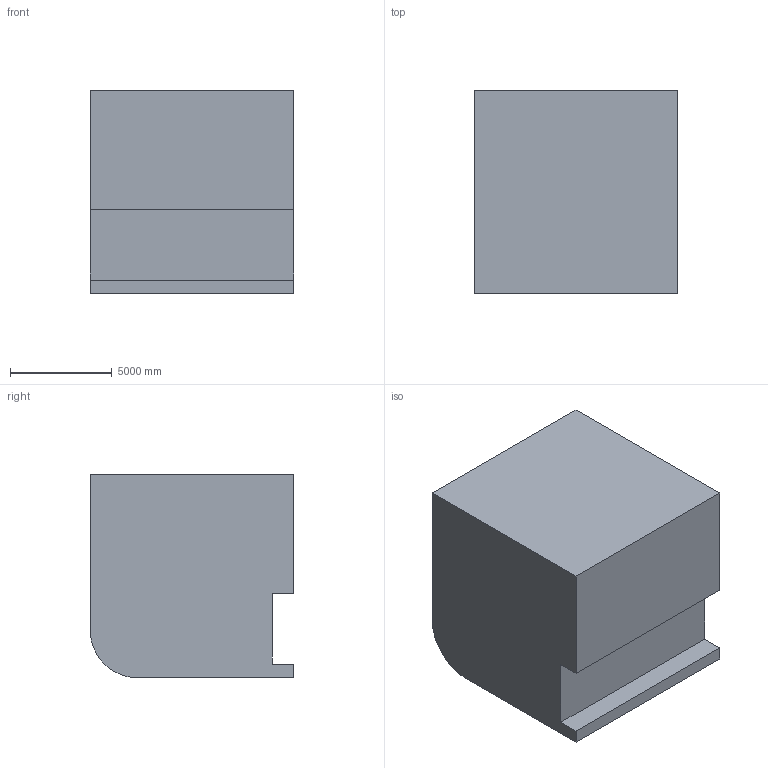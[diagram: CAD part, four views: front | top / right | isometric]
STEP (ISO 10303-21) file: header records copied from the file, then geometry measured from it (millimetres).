
FILE_DESCRIPTION (( 'STEP AP203' ), '1' );
FILE_NAME ('275.STEP', '2022-07-28T14:10:45', ( 'user' ), ( '' ), 'SwSTEP 2.0', 'SolidWorks 2021', '' );
FILE_SCHEMA (( 'CONFIG_CONTROL_DESIGN' ));
Length unit declared in the file: centimetre
Products named in the file (1): 275
Bounding box: 10000 x 10000 x 10000 mm (x, y, z)
Volume: 935710845186.8 mm3; surface area: 632204353.7 mm2
Topology: 1 solids, 1 shells, 17 faces, 39 edges, 26 vertices
Faces by surface type: plane 12, cylinder 5
Entity records: 560 total; most frequent: DIRECTION 85, CARTESIAN_POINT 83, ORIENTED_EDGE 78, EDGE_CURVE 39, VECTOR 29, LINE 29, AXIS2_PLACEMENT_3D 28, VERTEX_POINT 26
